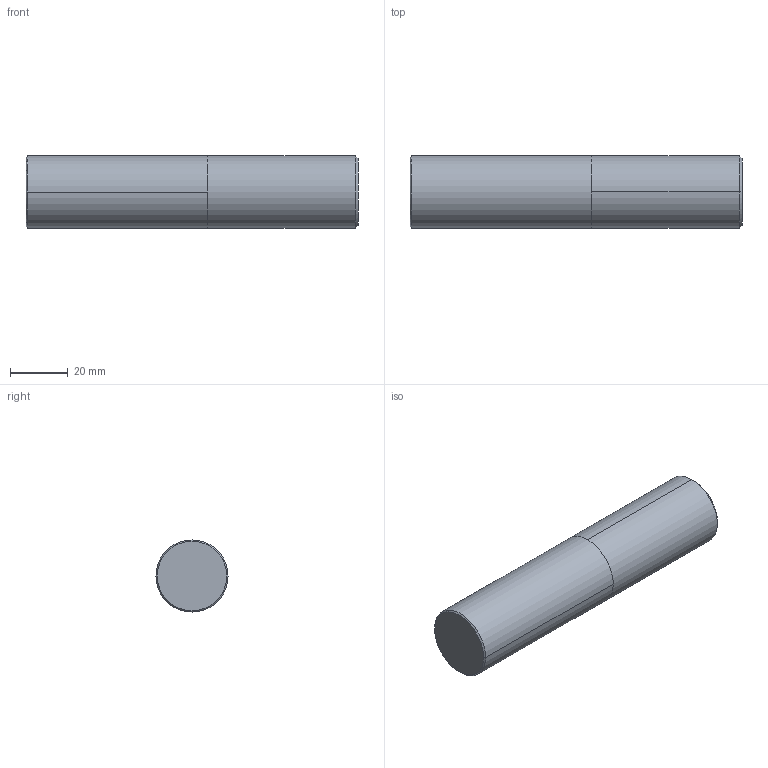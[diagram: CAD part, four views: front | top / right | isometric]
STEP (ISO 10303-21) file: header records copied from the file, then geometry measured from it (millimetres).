
FILE_DESCRIPTION (( 'STEP AP203' ), '1' );
FILE_NAME ('03-1783.STEP', '2021-09-10T07:38:42', ( 'USER' ), ( 'Hewlett-Packard Company' ), 'SwSTEP 2.0', 'SolidWorks 2014', '' );
FILE_SCHEMA (( 'CONFIG_CONTROL_DESIGN' ));
Length unit declared in the file: millimetre
Products named in the file (1): 03-1783
Bounding box: 115 x 25 x 25 mm (x, y, z)
Volume: 56402.6 mm3; surface area: 10924.9 mm2
Topology: 2 solids, 2 shells, 12 faces, 20 edges, 12 vertices
Faces by surface type: cylinder 4, cone 4, plane 4
Entity records: 359 total; most frequent: DIRECTION 58, CARTESIAN_POINT 45, ORIENTED_EDGE 40, AXIS2_PLACEMENT_3D 25, EDGE_CURVE 20, EDGE_LOOP 12, FACE_OUTER_BOUND 12, CIRCLE 12
